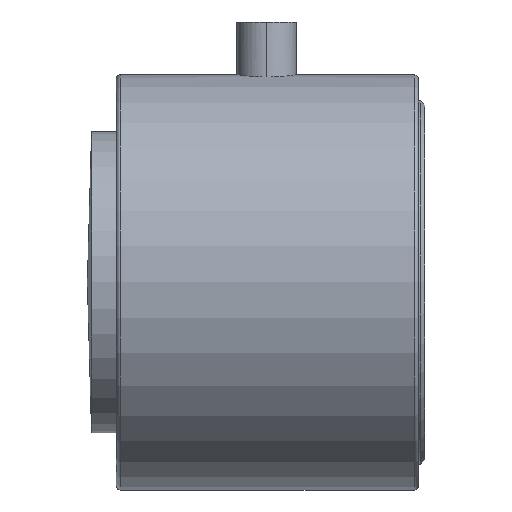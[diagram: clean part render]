
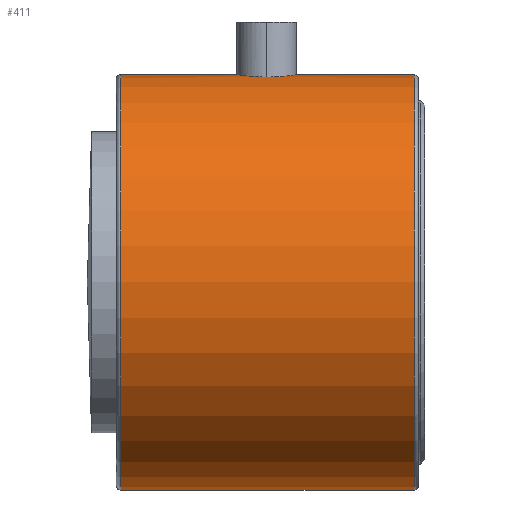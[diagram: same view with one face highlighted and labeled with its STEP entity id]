
A CAD part, left-side view. The second image highlights one B-rep face of the part: STEP entity #411.
In plain terms, the highlighted cylindrical face has radius 25.4 mm (diameter 50.8 mm), a partial arc.
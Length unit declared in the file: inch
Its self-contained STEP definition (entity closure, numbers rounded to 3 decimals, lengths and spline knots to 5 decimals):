
#59 = DIRECTION ( 'NONE',  ( 0., 1., 0. ) ) ;
#67 = CARTESIAN_POINT ( 'NONE',  ( 0., 0.05, 0. ) ) ;
#68 = DIRECTION ( 'NONE',  ( 0., 0., 1. ) ) ;
#109 = VECTOR ( 'NONE', #467, 39.37008 ) ;
#110 = LINE ( 'NONE', #485, #111 ) ;
#111 = VECTOR ( 'NONE', #489, 39.37008 ) ;
#112 = CIRCLE ( 'NONE', #734, 1. ) ;
#122 = LINE ( 'NONE', #478, #109 ) ;
#150 = CIRCLE ( 'NONE', #723, 1. ) ;
#209 = CARTESIAN_POINT ( 'NONE',  ( -0.01867, 0.90358, 0.99987 ) ) ;
#212 = CARTESIAN_POINT ( 'NONE',  ( -0.0369, 0.89995, 0.99936 ) ) ;
#214 = CARTESIAN_POINT ( 'NONE',  ( -0.04596, 0.89721, 0.99898 ) ) ;
#215 = CARTESIAN_POINT ( 'NONE',  ( -0.06319, 0.89006, 0.99804 ) ) ;
#216 = CARTESIAN_POINT ( 'NONE',  ( -0.07137, 0.88569, 0.99748 ) ) ;
#217 = CARTESIAN_POINT ( 'NONE',  ( -0.08685, 0.87536, 0.99625 ) ) ;
#225 = CARTESIAN_POINT ( 'NONE',  ( -0.10729, 0.85624, 0.99425 ) ) ;
#226 = CARTESIAN_POINT ( 'NONE',  ( -0.11319, 0.84908, 0.99359 ) ) ;
#227 = CARTESIAN_POINT ( 'NONE',  ( -0.12361, 0.83351, 0.99234 ) ) ;
#228 = CARTESIAN_POINT ( 'NONE',  ( -0.12803, 0.82526, 0.99178 ) ) ;
#229 = CARTESIAN_POINT ( 'NONE',  ( -0.13515, 0.80813, 0.99083 ) ) ;
#230 = CARTESIAN_POINT ( 'NONE',  ( -0.13789, 0.79914, 0.99045 ) ) ;
#231 = CARTESIAN_POINT ( 'NONE',  ( -0.09417, 0.86935, 0.99558 ) ) ;
#232 = CARTESIAN_POINT ( 'NONE',  ( 0., 0.9045, 1. ) ) ;
#234 = CARTESIAN_POINT ( 'NONE',  ( -0.1425, 0.77142, 0.98979 ) ) ;
#238 = CARTESIAN_POINT ( 'NONE',  ( -0.1425, 0.762, 0.98979 ) ) ;
#241 = CARTESIAN_POINT ( 'NONE',  ( -0.00941, 0.9045, 1. ) ) ;
#242 = CARTESIAN_POINT ( 'NONE',  ( -0.14157, 0.78073, 0.98993 ) ) ;
#273 = CARTESIAN_POINT ( 'NONE',  ( 0., 1.485, 0. ) ) ;
#278 = VERTEX_POINT ( 'NONE', #312 ) ;
#281 = DIRECTION ( 'NONE',  ( 0., 0., -1. ) ) ;
#293 = VERTEX_POINT ( 'NONE', #305 ) ;
#296 = DIRECTION ( 'NONE',  ( 0., -1., 0. ) ) ;
#305 = CARTESIAN_POINT ( 'NONE',  ( 0., 0.9045, 1. ) ) ;
#312 = CARTESIAN_POINT ( 'NONE',  ( 0., 0.05, -1. ) ) ;
#345 = CARTESIAN_POINT ( 'NONE',  ( -0.1425, 0.762, 0.98979 ) ) ;
#351 = CARTESIAN_POINT ( 'NONE',  ( 0., 0.05, 1. ) ) ;
#352 = CARTESIAN_POINT ( 'NONE',  ( 0., 0.6195, 1. ) ) ;
#355 = CARTESIAN_POINT ( 'NONE',  ( 0., 1.465, 1. ) ) ;
#357 = CARTESIAN_POINT ( 'NONE',  ( 0., 1.465, -1. ) ) ;
#372 = CARTESIAN_POINT ( 'NONE',  ( 0., 1.485, 1. ) ) ;
#402 = DIRECTION ( 'NONE',  ( 0., -1., 0. ) ) ;
#411 = ADVANCED_FACE ( 'NONE', ( #838 ), #842, .T. ) ;
#433 = VERTEX_POINT ( 'NONE', #352 ) ;
#434 = VERTEX_POINT ( 'NONE', #351 ) ;
#448 = VERTEX_POINT ( 'NONE', #345 ) ;
#449 = VERTEX_POINT ( 'NONE', #355 ) ;
#452 = VERTEX_POINT ( 'NONE', #357 ) ;
#453 = CARTESIAN_POINT ( 'NONE',  ( -0.08698, 0.64874, 0.99624 ) ) ;
#454 = CARTESIAN_POINT ( 'NONE',  ( -0.04597, 0.6268, 0.99898 ) ) ;
#455 = CARTESIAN_POINT ( 'NONE',  ( -0.03697, 0.62406, 0.99936 ) ) ;
#457 = CARTESIAN_POINT ( 'NONE',  ( -0.12803, 0.69875, 0.99178 ) ) ;
#459 = CARTESIAN_POINT ( 'NONE',  ( -0.1352, 0.71601, 0.99083 ) ) ;
#460 = CARTESIAN_POINT ( 'NONE',  ( -0.0714, 0.63832, 0.99748 ) ) ;
#462 = CARTESIAN_POINT ( 'NONE',  ( -0.00931, 0.6195, 1. ) ) ;
#464 = CARTESIAN_POINT ( 'NONE',  ( -0.10729, 0.66776, 0.99425 ) ) ;
#465 = CARTESIAN_POINT ( 'NONE',  ( -0.06312, 0.63391, 0.99804 ) ) ;
#466 = CARTESIAN_POINT ( 'NONE',  ( 0., 0.6195, 1. ) ) ;
#467 = DIRECTION ( 'NONE',  ( 0., -1., 0. ) ) ;
#469 = CARTESIAN_POINT ( 'NONE',  ( -0.14157, 0.7433, 0.98993 ) ) ;
#474 = CARTESIAN_POINT ( 'NONE',  ( -0.09416, 0.65463, 0.99558 ) ) ;
#476 = CARTESIAN_POINT ( 'NONE',  ( -0.01857, 0.6204, 0.99987 ) ) ;
#478 = CARTESIAN_POINT ( 'NONE',  ( 0., 1.485, -1. ) ) ;
#479 = CARTESIAN_POINT ( 'NONE',  ( -0.1425, 0.762, 0.98979 ) ) ;
#480 = CARTESIAN_POINT ( 'NONE',  ( -0.1425, 0.75257, 0.98979 ) ) ;
#481 = CARTESIAN_POINT ( 'NONE',  ( -0.13794, 0.72506, 0.99044 ) ) ;
#482 = CARTESIAN_POINT ( 'NONE',  ( -0.12365, 0.69057, 0.99234 ) ) ;
#483 = CARTESIAN_POINT ( 'NONE',  ( -0.11331, 0.67508, 0.99357 ) ) ;
#485 = CARTESIAN_POINT ( 'NONE',  ( 0., 1.485, 1. ) ) ;
#489 = DIRECTION ( 'NONE',  ( 0., -1., 0. ) ) ;
#597 = DIRECTION ( 'NONE',  ( 0., 0., 1. ) ) ;
#598 = CARTESIAN_POINT ( 'NONE',  ( 0., 1.465, 0. ) ) ;
#616 = DIRECTION ( 'NONE',  ( 0., -1., 0. ) ) ;
#623 = EDGE_CURVE ( 'NONE', #449, #293, #848, .T. ) ;
#642 = EDGE_CURVE ( 'NONE', #293, #448, #965, .T. ) ;
#666 = EDGE_CURVE ( 'NONE', #449, #452, #112, .T. ) ;
#674 = EDGE_CURVE ( 'NONE', #452, #278, #122, .T. ) ;
#676 = EDGE_CURVE ( 'NONE', #448, #433, #971, .T. ) ;
#692 = EDGE_CURVE ( 'NONE', #433, #434, #110, .T. ) ;
#695 = EDGE_CURVE ( 'NONE', #278, #434, #150, .T. ) ;
#698 = AXIS2_PLACEMENT_3D ( 'NONE', #273, #296, #281 ) ;
#723 = AXIS2_PLACEMENT_3D ( 'NONE', #67, #59, #68 ) ;
#734 = AXIS2_PLACEMENT_3D ( 'NONE', #598, #616, #597 ) ;
#772 = ORIENTED_EDGE ( 'NONE', *, *, #674, .T. ) ;
#782 = ORIENTED_EDGE ( 'NONE', *, *, #692, .F. ) ;
#822 = VECTOR ( 'NONE', #402, 39.37008 ) ;
#838 = FACE_OUTER_BOUND ( 'NONE', #882, .T. ) ;
#842 = CYLINDRICAL_SURFACE ( 'NONE', #698, 1. ) ;
#848 = LINE ( 'NONE', #372, #822 ) ;
#882 = EDGE_LOOP ( 'NONE', ( #949, #961, #772, #956, #782, #951, #955 ) ) ;
#949 = ORIENTED_EDGE ( 'NONE', *, *, #623, .F. ) ;
#951 = ORIENTED_EDGE ( 'NONE', *, *, #676, .F. ) ;
#955 = ORIENTED_EDGE ( 'NONE', *, *, #642, .F. ) ;
#956 = ORIENTED_EDGE ( 'NONE', *, *, #695, .T. ) ;
#961 = ORIENTED_EDGE ( 'NONE', *, *, #666, .T. ) ;
#965 = B_SPLINE_CURVE_WITH_KNOTS ( 'NONE', 3,
 ( #232, #241, #209, #212, #214, #215, #216, #217, #231, #225, #226, #227, #228, #229, #230, #242, #234, #238 ),
 .UNSPECIFIED., .F., .F.,
 ( 4, 2, 2, 2, 2, 2, 2, 2, 4 ),
 ( 0.017, 0.0177, 0.01841, 0.01912, 0.01983, 0.02054, 0.02124, 0.02195, 0.02266 ),
 .UNSPECIFIED. ) ;
#971 = B_SPLINE_CURVE_WITH_KNOTS ( 'NONE', 3,
 ( #479, #480, #469, #481, #459, #457, #482, #483, #464, #474, #453, #460, #465, #454, #455, #476, #462, #466 ),
 .UNSPECIFIED., .F., .F.,
 ( 4, 2, 2, 2, 2, 2, 2, 2, 4 ),
 ( 0., 0.00071, 0.00142, 0.00212, 0.00283, 0.00354, 0.00425, 0.00496, 0.00567 ),
 .UNSPECIFIED. ) ;
